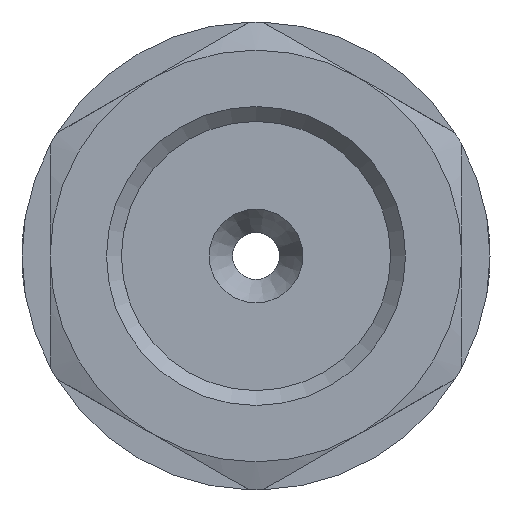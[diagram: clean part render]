
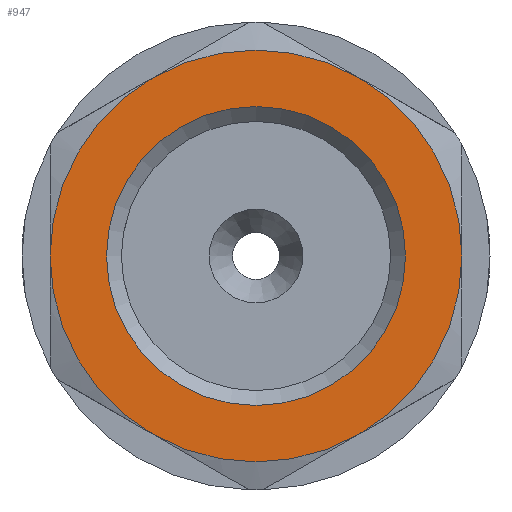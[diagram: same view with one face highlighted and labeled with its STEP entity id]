
A CAD part, left-side view. The second image highlights one B-rep face of the part: STEP entity #947.
In plain terms, the highlighted planar face has unit normal (-1, 0, 0).
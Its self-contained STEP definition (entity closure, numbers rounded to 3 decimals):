
#22=FACE_BOUND('',#249,.T.);
#50=PLANE('',#1068);
#78=CIRCLE('',#982,11.);
#82=CIRCLE('',#990,11.);
#86=CIRCLE('',#999,11.);
#109=CIRCLE('',#1044,11.);
#110=CIRCLE('',#1046,11.);
#111=CIRCLE('',#1048,11.);
#119=CIRCLE('',#1063,7.988);
#189=FACE_OUTER_BOUND('',#248,.T.);
#248=EDGE_LOOP('',(#870,#871,#872,#873,#874,#875));
#249=EDGE_LOOP('',(#876));
#395=VERTEX_POINT('',#1657);
#396=VERTEX_POINT('',#1661);
#409=VERTEX_POINT('',#1703);
#424=VERTEX_POINT('',#1754);
#453=VERTEX_POINT('',#1874);
#454=VERTEX_POINT('',#1882);
#459=VERTEX_POINT('',#1915);
#491=EDGE_CURVE('',#395,#396,#78,.T.);
#507=EDGE_CURVE('',#409,#395,#82,.T.);
#526=EDGE_CURVE('',#424,#409,#86,.T.);
#584=EDGE_CURVE('',#454,#424,#109,.T.);
#585=EDGE_CURVE('',#453,#454,#110,.T.);
#586=EDGE_CURVE('',#396,#453,#111,.T.);
#596=EDGE_CURVE('',#459,#459,#119,.T.);
#870=ORIENTED_EDGE('',*,*,#586,.F.);
#871=ORIENTED_EDGE('',*,*,#491,.F.);
#872=ORIENTED_EDGE('',*,*,#507,.F.);
#873=ORIENTED_EDGE('',*,*,#526,.F.);
#874=ORIENTED_EDGE('',*,*,#584,.F.);
#875=ORIENTED_EDGE('',*,*,#585,.F.);
#876=ORIENTED_EDGE('',*,*,#596,.F.);
#947=ADVANCED_FACE('',(#189,#22),#50,.T.);
#982=AXIS2_PLACEMENT_3D('',#1662,#1096,#1097);
#990=AXIS2_PLACEMENT_3D('',#1707,#1118,#1119);
#999=AXIS2_PLACEMENT_3D('',#1758,#1145,#1146);
#1044=AXIS2_PLACEMENT_3D('',#1890,#1259,#1260);
#1046=AXIS2_PLACEMENT_3D('',#1892,#1263,#1264);
#1048=AXIS2_PLACEMENT_3D('',#1894,#1267,#1268);
#1063=AXIS2_PLACEMENT_3D('',#1916,#1299,#1300);
#1068=AXIS2_PLACEMENT_3D('',#1926,#1311,#1312);
#1096=DIRECTION('center_axis',(1.,0.,0.));
#1097=DIRECTION('ref_axis',(0.,0.,-1.));
#1118=DIRECTION('center_axis',(1.,0.,0.));
#1119=DIRECTION('ref_axis',(0.,0.,-1.));
#1145=DIRECTION('center_axis',(1.,0.,0.));
#1146=DIRECTION('ref_axis',(0.,0.,-1.));
#1259=DIRECTION('center_axis',(1.,0.,0.));
#1260=DIRECTION('ref_axis',(0.,0.,-1.));
#1263=DIRECTION('center_axis',(1.,0.,0.));
#1264=DIRECTION('ref_axis',(0.,0.,-1.));
#1267=DIRECTION('center_axis',(1.,0.,0.));
#1268=DIRECTION('ref_axis',(0.,0.,-1.));
#1299=DIRECTION('center_axis',(-1.,0.,0.));
#1300=DIRECTION('ref_axis',(0.,0.,-1.));
#1311=DIRECTION('center_axis',(-1.,0.,0.));
#1312=DIRECTION('ref_axis',(0.,0.,1.));
#1657=CARTESIAN_POINT('',(0.,5.5,-9.526));
#1661=CARTESIAN_POINT('',(0.,11.,0.));
#1662=CARTESIAN_POINT('Origin',(0.,0.,0.));
#1703=CARTESIAN_POINT('',(0.,-5.5,-9.526));
#1707=CARTESIAN_POINT('Origin',(0.,0.,0.));
#1754=CARTESIAN_POINT('',(0.,-11.,0.));
#1758=CARTESIAN_POINT('Origin',(0.,0.,0.));
#1874=CARTESIAN_POINT('',(0.,5.5,9.526));
#1882=CARTESIAN_POINT('',(0.,-5.5,9.526));
#1890=CARTESIAN_POINT('Origin',(0.,0.,0.));
#1892=CARTESIAN_POINT('Origin',(0.,0.,0.));
#1894=CARTESIAN_POINT('Origin',(0.,0.,0.));
#1915=CARTESIAN_POINT('',(0.,0.,7.988));
#1916=CARTESIAN_POINT('Origin',(0.,0.,0.));
#1926=CARTESIAN_POINT('Origin',(0.,11.,0.));
